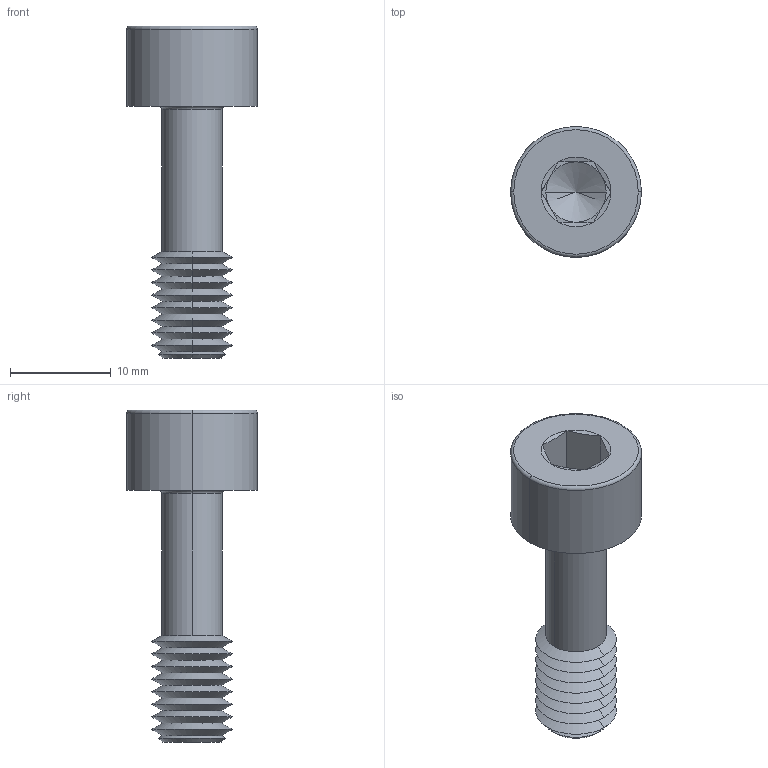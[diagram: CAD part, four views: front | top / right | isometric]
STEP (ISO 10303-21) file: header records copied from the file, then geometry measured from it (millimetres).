
FILE_DESCRIPTION (( 'STEP AP203' ), '1' );
FILE_NAME ('P0154.080-025-BL.step', '2024-06-17T11:31:18', ( '' ), ( '' ), 'SwSTEP 2.0', 'SolidWorks 2019', '' );
FILE_SCHEMA (( 'CONFIG_CONTROL_DESIGN' ));
Length unit declared in the file: millimetre
Products named in the file (1): P0154.080-025-BL
Bounding box: 13 x 13 x 33 mm (x, y, z)
Volume: 1662.3 mm3; surface area: 1435.3 mm2
Topology: 1 solids, 1 shells, 67 faces, 136 edges, 71 vertices
Faces by surface type: cone 44, plane 15, torus 4, cylinder 4
Entity records: 1787 total; most frequent: DIRECTION 332, CARTESIAN_POINT 299, ORIENTED_EDGE 268, AXIS2_PLACEMENT_3D 136, EDGE_CURVE 134, VERTEX_POINT 71, EDGE_LOOP 69, CIRCLE 68
